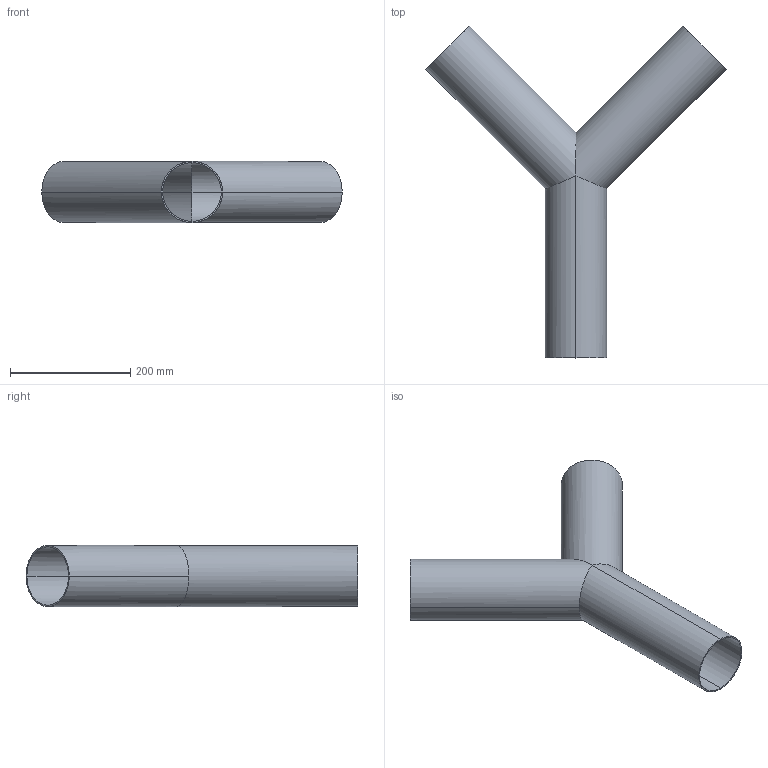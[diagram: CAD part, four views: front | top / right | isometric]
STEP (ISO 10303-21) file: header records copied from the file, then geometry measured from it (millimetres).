
FILE_DESCRIPTION (( 'STEP AP214' ), '1' );
FILE_NAME ('TE28WB6L4.0-...STEP', '2016-05-25T04:31:01', ( 'eran' ), ( '' ), 'SwSTEP 2.0', 'SolidWorks 2016', '' );
FILE_SCHEMA (( 'AUTOMOTIVE_DESIGN' ));
Length unit declared in the file: millimetre
Products named in the file (1): TE28WB6L4.0-..
Bounding box: 499.22 x 551.81 x 101.6 mm (x, y, z)
Volume: 559705.5 mm3; surface area: 532494.2 mm2
Topology: 1 solids, 1 shells, 15 faces, 36 edges, 22 vertices
Faces by surface type: cylinder 12, plane 3
Entity records: 476 total; most frequent: CARTESIAN_POINT 110, ORIENTED_EDGE 72, DIRECTION 68, EDGE_CURVE 36, AXIS2_PLACEMENT_3D 28, VERTEX_POINT 22, EDGE_LOOP 18, ADVANCED_FACE 15
